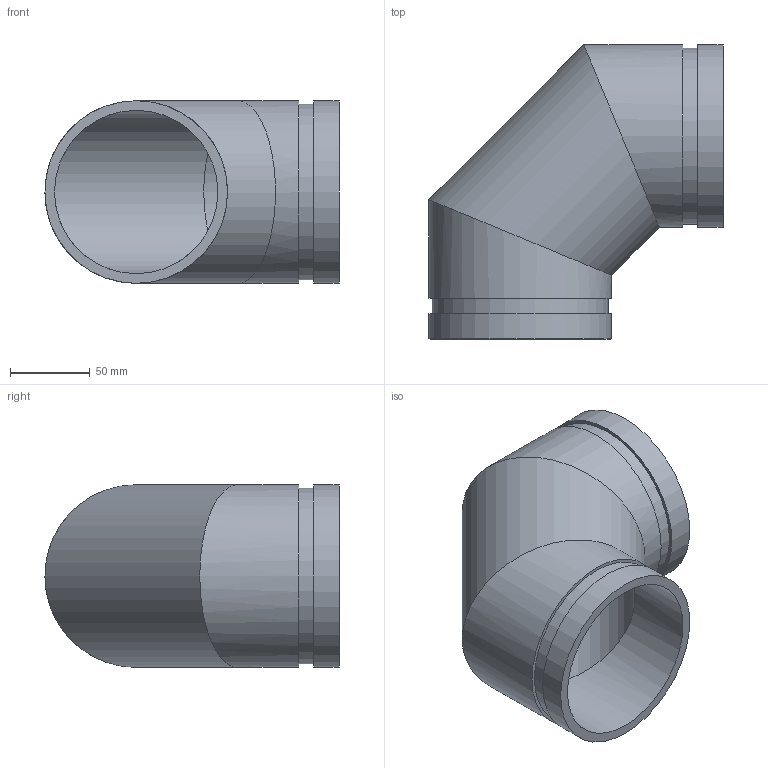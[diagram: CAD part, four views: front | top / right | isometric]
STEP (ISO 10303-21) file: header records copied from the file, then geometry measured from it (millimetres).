
FILE_DESCRIPTION(/* description */ ('VIC 90 DEG ELBOW FABRICATED No 10 SWS (OGS)','CAx-IF Rec.Pracs.---Representation and Presentation of Product Manufacturing Information (PMI)---4.0---2014-10-13'),/* implementation_level */ '2;1');
FILE_NAME(/* name */ 'C:\Users\kkamble\AppData\Roaming\Autodesk\ApplicationPlugins\Back Up\Victaulic_IPS_Elbow 90 Deg_No 10 SWS (OGS)\Victaulic_IPS_Elbow 90 Deg_No 10 SWS (OGS)_4 (100).stp',/* time_stamp */ '2020-09-16T22:17:43+06:00',/* author */ ('cgray'),/* organization */ ('Victaulic'),/* preprocessor_version */ 'ST-DEVELOPER v17.2',/* originating_system */ 'Autodesk Inventor 2019',/* authorisation */ '');
FILE_SCHEMA (('AP242_MANAGED_MODEL_BASED_3D_ENGINEERING_MIM_LF { 1 0 10303 442 1 1 4 }'));
Length unit declared in the file: inch
Products named in the file (1): 10 SWS-04.0
Bounding box: 184.15 x 184.15 x 114.3 mm (x, y, z)
Volume: 429806.4 mm3; surface area: 154315.9 mm2
Topology: 1 solids, 1 shells, 16 faces, 38 edges, 28 vertices
Faces by surface type: cylinder 10, plane 6
Full cylindrical faces by diameter (mm): 102.26 x3, 110.084 x2, 114.3 x5
Entity records: 646 total; most frequent: DIRECTION 126, CARTESIAN_POINT 100, ORIENTED_EDGE 76, AXIS2_PLACEMENT_3D 58, EDGE_CURVE 38, VERTEX_POINT 28, EDGE_LOOP 22, STYLED_ITEM 18
